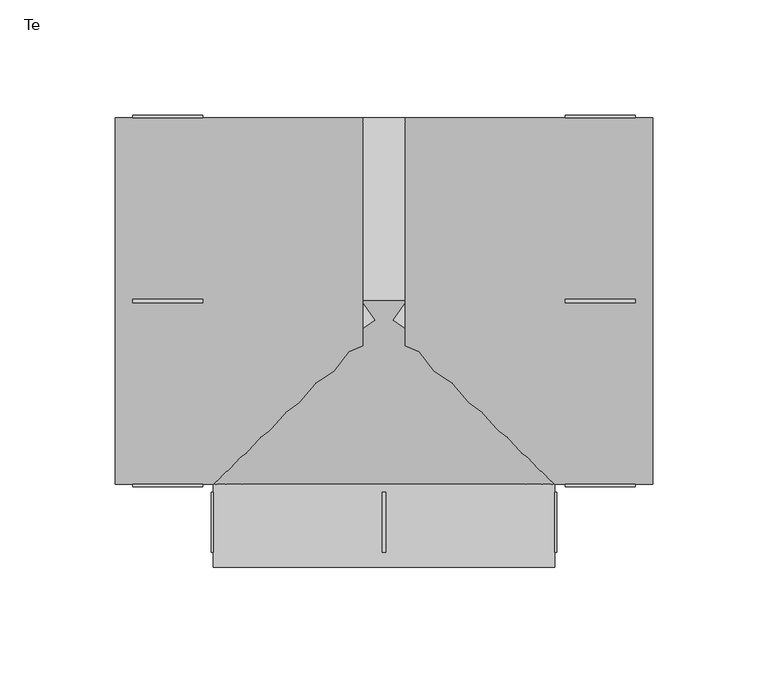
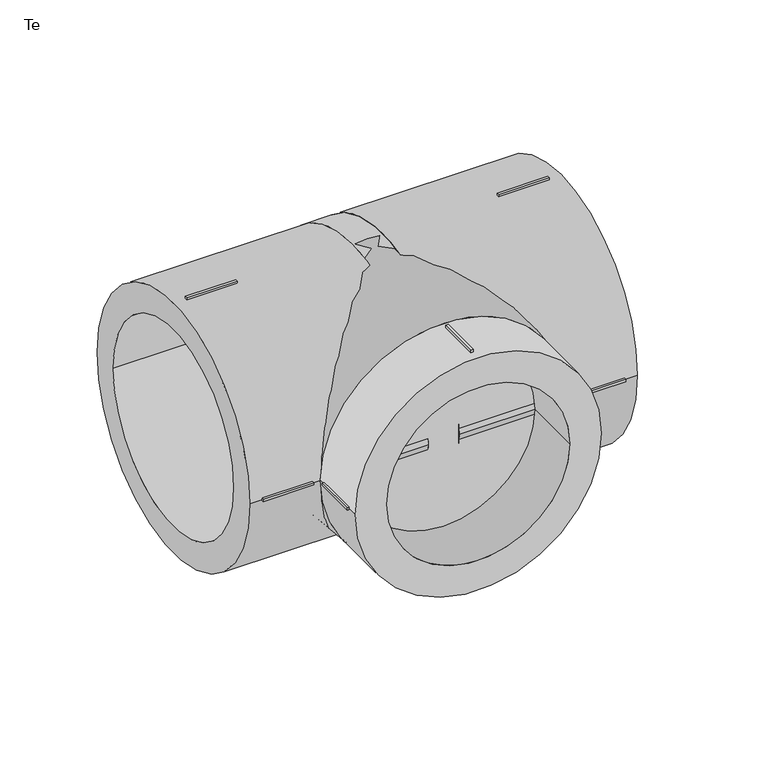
"""IFC4 building model written with IfcOpenShell, lengths in millimetres: pipe fitting geometry, EGB_VASEN_ PPR_Te WXR300_Te reducida WXR310 : Te."""

from ifc_helpers import new_model, si_unit, point, frame, origin, origin_2d, place, context, project, spatial, polyline, circle_curve, trimmed, segment, composite_curve, outline, extrude, source, transform, mapped, element, save
from ifc_brep_helpers import plane_surface, revolved_surface, advanced_brep


def te_18f18e79(model_context):
    return source(origin(), model_context, "Body", "SolidModel", [
        extrude(outline(polyline([(-0.75, -83.0), (0.75, -83.0), (0.75, -109.0), (-0.75, -109.0), (-0.75, -83.0)])), frame((0.0, 0.0, 73.0), z_axis=(0.0, 0.0, 1.0), x_axis=(1.0, 0.0, 0.0)), (0.0, 0.0, 1.0), 2.0),
        extrude(outline(polyline([(-0.75, -83.0), (0.75, -83.0), (0.75, -109.0), (-0.75, -109.0), (-0.75, -83.0)])), frame((0.0, 0.0, -75.0), z_axis=(0.0, 0.0, 1.0), x_axis=(1.0, 0.0, 0.0)), (0.0, 0.0, 1.0), 2.0),
        extrude(outline(polyline([(73.0, -83.0), (75.0, -83.0), (75.0, -109.0), (73.0, -109.0), (73.0, -83.0)])), frame((0.0, 0.0, -0.75), z_axis=(0.0, 0.0, 1.0), x_axis=(1.0, 0.0, 0.0)), (0.0, 0.0, 1.0), 1.5),
        extrude(outline(polyline([(-75.0, -83.0), (-73.0, -83.0), (-73.0, -109.0), (-75.0, -109.0), (-75.0, -83.0)])), frame((0.0, 0.0, -0.75), z_axis=(0.0, 0.0, 1.0), x_axis=(1.0, 0.0, 0.0)), (0.0, 0.0, 1.0), 1.5),
        extrude(outline(polyline([(78.5, -0.75), (78.5, 0.75), (108.9, 0.75), (108.9, -0.75), (78.5, -0.75)])), frame((0.0, 0.0, 78.5), z_axis=(0.0, 0.0, 1.0), x_axis=(1.0, 0.0, 0.0)), (0.0, 0.0, 1.0), 2.0),
        extrude(outline(polyline([(78.5, -0.75), (78.5, 0.75), (108.9, 0.75), (108.9, -0.75), (78.5, -0.75)])), frame((0.0, 0.0, -80.5), z_axis=(0.0, 0.0, 1.0), x_axis=(1.0, 0.0, 0.0)), (0.0, 0.0, 1.0), 2.0),
        extrude(outline(polyline([(78.5, 78.5), (78.5, 80.5), (108.9, 80.5), (108.9, 78.5), (78.5, 78.5)])), frame((0.0, 0.0, -0.75), z_axis=(0.0, 0.0, 1.0), x_axis=(1.0, 0.0, 0.0)), (0.0, 0.0, 1.0), 1.5),
        extrude(outline(polyline([(78.5, -80.5), (78.5, -78.5), (108.9, -78.5), (108.9, -80.5), (78.5, -80.5)])), frame((0.0, 0.0, -0.75), z_axis=(0.0, 0.0, 1.0), x_axis=(1.0, 0.0, 0.0)), (0.0, 0.0, 1.0), 1.5),
        extrude(outline(polyline([(-78.5, 0.75), (-78.5, -0.75), (-108.9, -0.75), (-108.9, 0.75), (-78.5, 0.75)])), frame((0.0, 0.0, 78.5), z_axis=(0.0, 0.0, 1.0), x_axis=(1.0, 0.0, 0.0)), (0.0, 0.0, 1.0), 2.0),
        extrude(outline(polyline([(-78.5, 0.75), (-78.5, -0.75), (-108.9, -0.75), (-108.9, 0.75), (-78.5, 0.75)])), frame((0.0, 0.0, -80.5), z_axis=(0.0, 0.0, 1.0), x_axis=(1.0, 0.0, 0.0)), (0.0, 0.0, 1.0), 2.0),
        extrude(outline(polyline([(-78.5, 80.5), (-78.5, 78.5), (-108.9, 78.5), (-108.9, 80.5), (-78.5, 80.5)])), frame((0.0, 0.0, -0.75), z_axis=(0.0, 0.0, 1.0), x_axis=(1.0, 0.0, 0.0)), (0.0, 0.0, 1.0), 1.5),
        extrude(outline(polyline([(-78.5, -78.5), (-78.5, -80.5), (-108.9, -80.5), (-108.9, -78.5), (-78.5, -78.5)])), frame((0.0, 0.0, -0.75), z_axis=(0.0, 0.0, 1.0), x_axis=(1.0, 0.0, 0.0)), (0.0, 0.0, 1.0), 1.5),
        extrude(outline(composite_curve([segment(trimmed(circle_curve(origin_2d(), 74.0), [point((0.0, 74.0))], [point((0.0, -74.0))], False, "CARTESIAN"), True, "CONTINUOUS"), segment(trimmed(circle_curve(origin_2d(), 74.0), [point((0.0, -74.0))], [point((0.0, 74.0))], False, "CARTESIAN"), True, "CONTINUOUS")], self_intersect=False), holes=[composite_curve([segment(trimmed(circle_curve(origin_2d(), 55.0), [point((0.0, 55.0))], [point((0.0, -55.0))], True, "CARTESIAN"), True, "CONTINUOUS"), segment(trimmed(circle_curve(origin_2d(), 55.0), [point((0.0, -55.0))], [point((0.0, 55.0))], True, "CARTESIAN"), True, "CONTINUOUS")], self_intersect=False)]), frame((0.0, -115.5, 0.0), z_axis=(0.0, 1.0, 0.0), x_axis=(0.0, 0.0, 1.0)), (0.0, 0.0, 1.0), 36.0),
        extrude(outline(composite_curve([segment(trimmed(circle_curve(origin_2d(), 79.5), [point((-79.5, 0.0))], [point((79.5, 0.0))], False, "CARTESIAN"), True, "CONTINUOUS"), segment(trimmed(circle_curve(origin_2d(), 79.5), [point((79.5, 0.0))], [point((-79.5, 0.0))], False, "CARTESIAN"), True, "CONTINUOUS")], self_intersect=False), holes=[composite_curve([segment(trimmed(circle_curve(origin_2d(), 62.5), [point((-62.5, 0.0))], [point((62.5, 0.0))], True, "CARTESIAN"), True, "CONTINUOUS"), segment(trimmed(circle_curve(origin_2d(), 62.5), [point((62.5, 0.0))], [point((-62.5, 0.0))], True, "CARTESIAN"), True, "CONTINUOUS")], self_intersect=False)]), frame((9.32, 0.0, 0.0), z_axis=(1.0, 0.0, 0.0), x_axis=(0.0, 1.0, 0.0)), (0.0, 0.0, 1.0), 107.18),
        extrude(outline(composite_curve([segment(trimmed(circle_curve(origin_2d(), 79.5), [point((-79.5, 0.0))], [point((79.5, 0.0))], False, "CARTESIAN"), True, "CONTINUOUS"), segment(trimmed(circle_curve(origin_2d(), 79.5), [point((79.5, 0.0))], [point((-79.5, 0.0))], False, "CARTESIAN"), True, "CONTINUOUS")], self_intersect=False), holes=[composite_curve([segment(trimmed(circle_curve(origin_2d(), 62.5), [point((-62.5, 0.0))], [point((62.5, 0.0))], True, "CARTESIAN"), True, "CONTINUOUS"), segment(trimmed(circle_curve(origin_2d(), 62.5), [point((62.5, 0.0))], [point((-62.5, 0.0))], True, "CARTESIAN"), True, "CONTINUOUS")], self_intersect=False)]), frame((-116.5, 0.0, 0.0), z_axis=(1.0, 0.0, 0.0), x_axis=(0.0, 1.0, 0.0)), (0.0, 0.0, 1.0), 107.18),
        advanced_brep(
        [(79.5, 0.0, 0.0), (-79.5, 0.0, 0.0), (74.0, -79.5, 0.0), (-74.0, -79.5, 0.0)],
        [
            (0, 1, circle_curve(frame((0.0, 0.0, 0.0), z_axis=(0.0, 1.0, 0.0), x_axis=(1.0, 0.0, 0.0)), 79.5)),
            (1, 0, circle_curve(frame((0.0, 0.0, 0.0), z_axis=(0.0, 1.0, 0.0), x_axis=(-1.0, 0.0, 0.0)), 79.5)),
            (2, 3, circle_curve(frame((0.0, -79.5, 0.0), z_axis=(0.0, -1.0, 0.0), x_axis=(-1.0, 0.0, 0.0)), 74.0)),
            (3, 2, circle_curve(frame((0.0, -79.5, 0.0), z_axis=(0.0, -1.0, 0.0), x_axis=(1.0, 0.0, 0.0)), 74.0)),
            (3, 1),
            (0, 2),
        ],
        [
            plane_surface(frame((0.0, 0.0, 0.0), z_axis=(0.0, 1.0, 0.0), x_axis=(0.0, 0.0, -1.0))),
            plane_surface(frame((0.0, -79.5, 0.0), z_axis=(0.0, -1.0, 0.0), x_axis=(0.0, 0.0, -1.0))),
            revolved_surface(polyline([(-73.99999999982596, -79.5, 0.0), (-79.5, 0.0, 0.0)]), (0.0, -1149.1363636, 0.0), (0.0, 1.0, 0.0)),
            revolved_surface(polyline([(73.99999999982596, -79.5, 0.0), (79.5, 0.0, 0.0)]), (0.0, -1149.1363636, 0.0), (0.0, 1.0, 0.0)),
        ],
        [
            (0, [[1, 2]]),
            (1, [[3, 4]]),
            (2, [[-4, 5, -1, 6]]),
            (3, [[-3, -6, -2, -5]]),
        ],
    ),
        extrude(outline(composite_curve([segment(trimmed(circle_curve(origin_2d(), 79.5), [point((-79.5, 0.0))], [point((79.5, 0.0))], False, "CARTESIAN"), True, "CONTINUOUS"), segment(trimmed(circle_curve(origin_2d(), 79.5), [point((79.5, 0.0))], [point((-79.5, 0.0))], False, "CARTESIAN"), True, "CONTINUOUS")], self_intersect=False)), frame((-9.32, 0.0, 0.0), z_axis=(1.0, 0.0, 0.0), x_axis=(0.0, 1.0, 0.0)), (0.0, 0.0, 1.0), 18.64),
    ])


if __name__ == "__main__":
    model = new_model("IFC4")
    model_context = context("Model", 3, world=origin())
    ifc_project = project(units=[si_unit("LENGTHUNIT", "METRE", prefix="MILLI")], contexts=[model_context])
    site = spatial("IfcSite", under=ifc_project)
    building = spatial("IfcBuilding", under=site)
    placement = place(None, origin())
    te_shape = te_18f18e79(model_context)
    element("IfcPipeFitting", 1, ObjectType="EGB_VASEN_ PPR_Te WXR300_Te reducida WXR310 : Te", at=placement, inside=building, context=model_context, shape_type="MappedRepresentation", body=[
        mapped(te_shape, transform((0.0, 0.0, 0.0), x_axis=(1.0, 0.0, 0.0), y_axis=(0.0, 1.0, 0.0), z_axis=(0.0, 0.0, 1.0))),
    ])
    save(model, "model.ifc")
